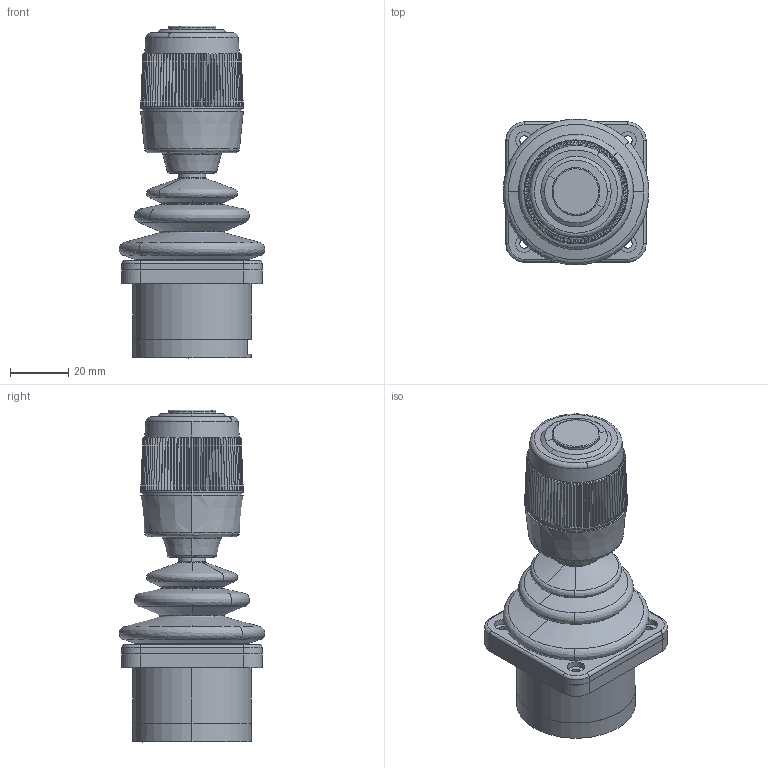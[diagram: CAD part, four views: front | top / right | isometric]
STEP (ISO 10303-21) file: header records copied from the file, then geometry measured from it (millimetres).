
FILE_DESCRIPTION (( 'STEP AP214' ), '1' );
FILE_NAME ('TRY100_5519311.STEP', '2012-11-08T16:48:08', ( 'P700' ), ( 'Esprimo' ), 'SwSTEP 2.0', 'SolidWorks 2012', '' );
FILE_SCHEMA (( 'AUTOMOTIVE_DESIGN' ));
Length unit declared in the file: inch
Products named in the file (1): TRY100_5519311
Bounding box: 50.13 x 50.09 x 114.22 mm (x, y, z)
Volume: 88128.6 mm3; surface area: 63412.3 mm2
Topology: 20 solids, 20 shells, 1173 faces, 3024 edges, 1943 vertices
Faces by surface type: plane 493, cylinder 401, cone 171, bspline 108
Entity records: 53192 total; most frequent: CARTESIAN_POINT 15126, ORIENTED_EDGE 6044, DIRECTION 5494, EDGE_CURVE 3022, AXIS2_PLACEMENT_3D 2152, VERTEX_POINT 1943, EDGE_LOOP 1297, VECTOR 1190
